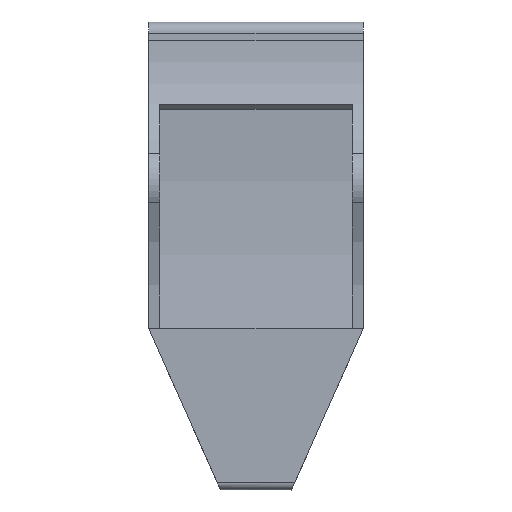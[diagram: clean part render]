
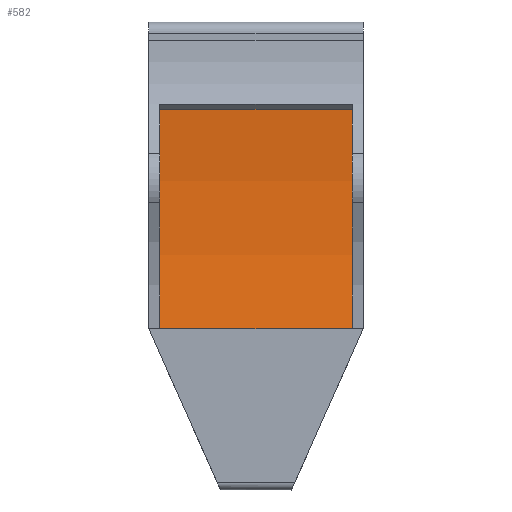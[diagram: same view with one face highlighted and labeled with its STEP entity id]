
A CAD part, left-side view. The second image highlights one B-rep face of the part: STEP entity #582.
In plain terms, the highlighted cylindrical face has radius 206 mm (diameter 412 mm), a partial arc.
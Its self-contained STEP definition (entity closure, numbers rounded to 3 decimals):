
#61=CIRCLE('',#631,206.);
#68=CIRCLE('',#642,206.);
#95=FACE_OUTER_BOUND('',#136,.T.);
#136=EDGE_LOOP('',(#442,#443,#444,#445));
#184=LINE('',#960,#223);
#185=LINE('',#963,#224);
#223=VECTOR('',#769,10.);
#224=VECTOR('',#772,10.);
#269=VERTEX_POINT('',#921);
#276=VERTEX_POINT('',#934);
#285=VERTEX_POINT('',#958);
#286=VERTEX_POINT('',#962);
#334=EDGE_CURVE('',#276,#269,#61,.T.);
#346=EDGE_CURVE('',#276,#285,#184,.T.);
#347=EDGE_CURVE('',#286,#269,#185,.T.);
#348=EDGE_CURVE('',#286,#285,#68,.T.);
#442=ORIENTED_EDGE('',*,*,#347,.T.);
#443=ORIENTED_EDGE('',*,*,#334,.F.);
#444=ORIENTED_EDGE('',*,*,#346,.T.);
#445=ORIENTED_EDGE('',*,*,#348,.F.);
#556=CYLINDRICAL_SURFACE('',#641,206.);
#582=ADVANCED_FACE('',(#95),#556,.F.);
#631=AXIS2_PLACEMENT_3D('',#936,#744,#745);
#641=AXIS2_PLACEMENT_3D('',#961,#770,#771);
#642=AXIS2_PLACEMENT_3D('',#964,#773,#774);
#744=DIRECTION('center_axis',(0.,1.,0.));
#745=DIRECTION('ref_axis',(0.981,0.,0.196));
#769=DIRECTION('',(0.,1.,0.));
#770=DIRECTION('center_axis',(0.,1.,0.));
#771=DIRECTION('ref_axis',(0.981,0.,0.196));
#772=DIRECTION('',(0.,-1.,0.));
#773=DIRECTION('center_axis',(0.,-1.,0.));
#774=DIRECTION('ref_axis',(0.981,0.,0.196));
#921=CARTESIAN_POINT('',(23.351,-24.9,-38.601));
#934=CARTESIAN_POINT('',(23.,-24.9,40.398));
#936=CARTESIAN_POINT('Origin',(-179.,-24.9,0.));
#958=CARTESIAN_POINT('',(23.,26.5,40.398));
#960=CARTESIAN_POINT('',(23.,-24.9,40.398));
#961=CARTESIAN_POINT('Origin',(-179.,-24.9,0.));
#962=CARTESIAN_POINT('',(23.351,26.5,-38.601));
#963=CARTESIAN_POINT('',(23.351,-24.9,-38.601));
#964=CARTESIAN_POINT('Origin',(-179.,26.5,0.));
